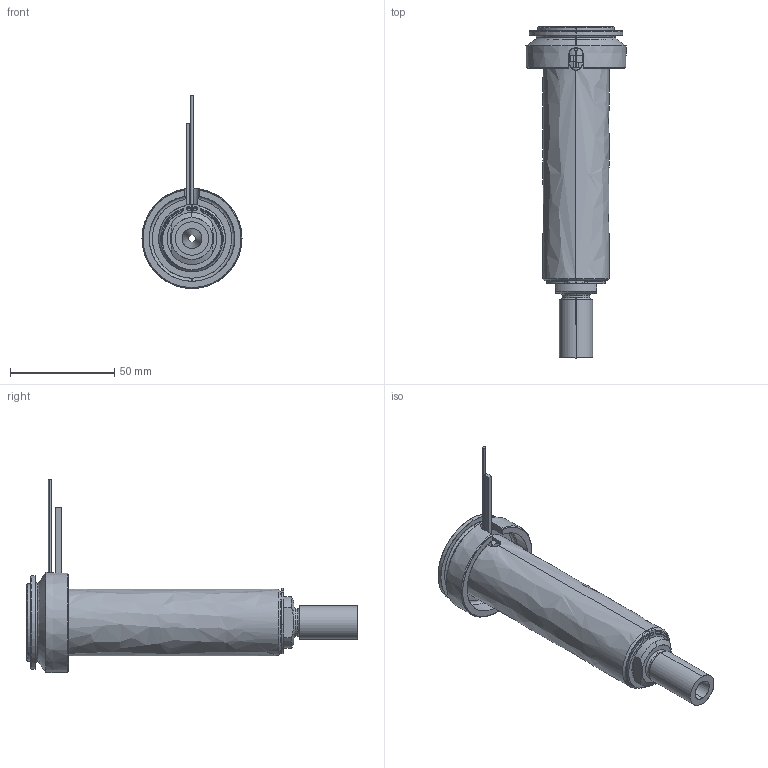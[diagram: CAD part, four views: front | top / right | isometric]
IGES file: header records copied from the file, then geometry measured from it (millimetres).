
Start section: SolidWorks IGES file using analytic representation for surfaces
Global section: file name: C:\Documents and Settings\ws-20\Desktop\TEMPORANEA\UGBE5003-M-A-P-5 [Ød-3.5 P-25 ØC-12].IGS; native system: SolidWorks 2012; preprocessor: SolidWorks 2012; author: ws-20; date: 120306.145536; units: millimetre
Bounding box: 48 x 159.25 x 92.62 mm (x, y, z)
Surface area: 51220.4 mm2 (no closed solid volume)
Topology: 0 solids, 0 shells, 109 faces, 2030 edges, 2030 vertices
Faces by surface type: revolution 63, bspline 46
